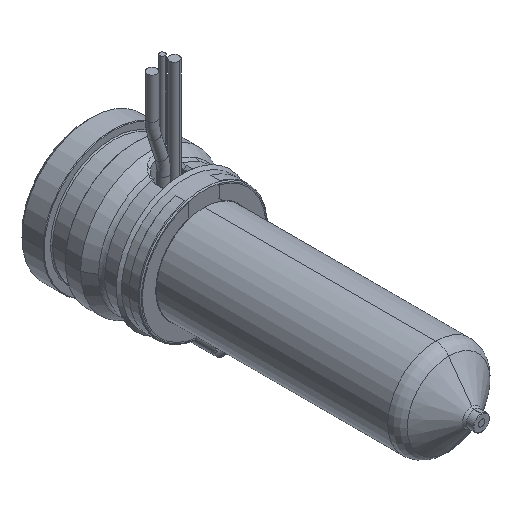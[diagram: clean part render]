
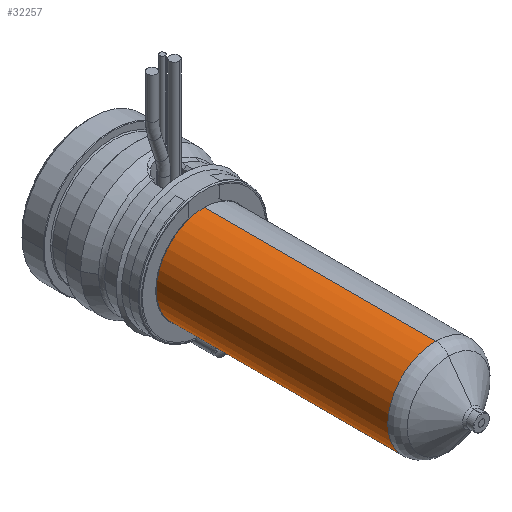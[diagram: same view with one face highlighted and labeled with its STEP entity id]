
A CAD part, isometric view. The second image highlights one B-rep face of the part: STEP entity #32257.
In plain terms, the highlighted cylindrical face has radius 9 mm (diameter 18 mm), a partial arc.
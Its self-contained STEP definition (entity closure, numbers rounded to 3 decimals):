
#31815=CARTESIAN_POINT('',(0.,-65.471,0.));
#31816=DIRECTION('',(0.,-1.,0.));
#31817=DIRECTION('',(0.,0.,1.));
#31818=AXIS2_PLACEMENT_3D('',#31815,#31816,#31817);
#31847=DIRECTION('',(0.,-1.,0.));
#31848=VECTOR('',#31847,43.471);
#31849=CARTESIAN_POINT('',(0.,-22.,9.));
#31850=LINE('',#31849,#31848);
#31862=DIRECTION('',(0.,-1.,0.));
#31863=VECTOR('',#31862,43.471);
#31864=CARTESIAN_POINT('',(0.,-22.,-9.));
#31865=LINE('',#31864,#31863);
#31869=CARTESIAN_POINT('',(0.,-22.,0.));
#31870=DIRECTION('',(0.,-1.,0.));
#31871=DIRECTION('',(0.,0.,1.));
#31872=AXIS2_PLACEMENT_3D('',#31869,#31870,#31871);
#32073=CARTESIAN_POINT('',(0.,-22.,9.));
#32074=CARTESIAN_POINT('',(0.,-65.471,9.));
#32075=VERTEX_POINT('',#32073);
#32076=VERTEX_POINT('',#32074);
#32085=CARTESIAN_POINT('',(0.,-22.,-9.));
#32086=CARTESIAN_POINT('',(0.,-65.471,-9.));
#32087=VERTEX_POINT('',#32085);
#32088=VERTEX_POINT('',#32086);
#32245=CARTESIAN_POINT('',(0.,-15.2,0.));
#32246=DIRECTION('',(0.,-1.,0.));
#32247=DIRECTION('',(0.,0.,1.));
#32248=AXIS2_PLACEMENT_3D('',#32245,#32246,#32247);
#32249=CYLINDRICAL_SURFACE('',#32248,9.);
#32250=ORIENTED_EDGE('',*,*,#32235,.T.);
#32251=ORIENTED_EDGE('',*,*,#32212,.T.);
#32252=ORIENTED_EDGE('',*,*,#32239,.F.);
#32254=ORIENTED_EDGE('',*,*,#32253,.F.);
#32255=EDGE_LOOP('',(#32250,#32251,#32252,#32254));
#32256=FACE_OUTER_BOUND('',#32255,.F.);
#32257=ADVANCED_FACE('',(#32256),#32249,.T.);
#31819=CIRCLE('',#31818,9.);
#31873=CIRCLE('',#31872,9.);
#32212=EDGE_CURVE('',#32076,#32088,#31819,.T.);
#32235=EDGE_CURVE('',#32075,#32076,#31850,.T.);
#32239=EDGE_CURVE('',#32087,#32088,#31865,.T.);
#32253=EDGE_CURVE('',#32075,#32087,#31873,.T.);
